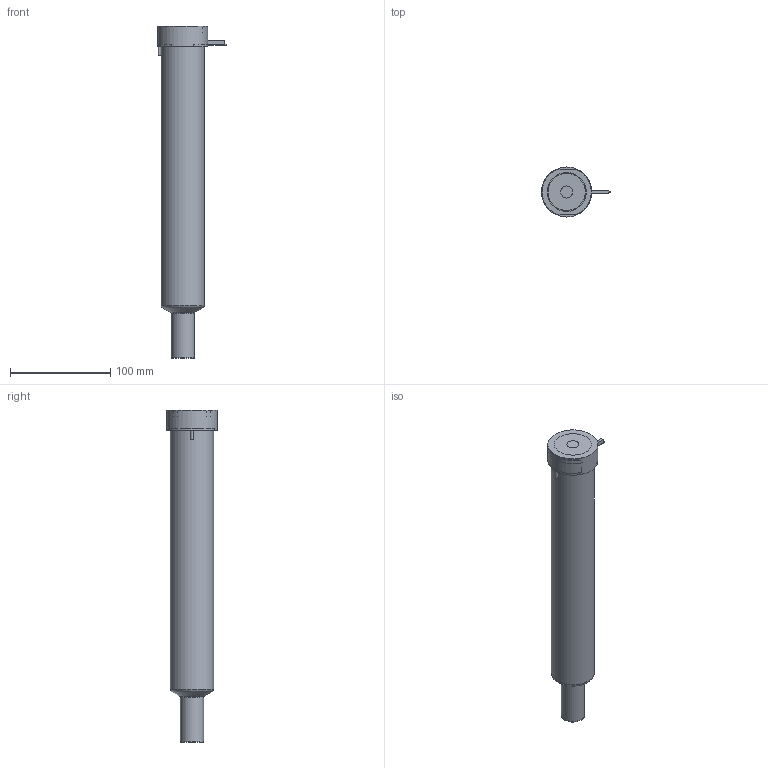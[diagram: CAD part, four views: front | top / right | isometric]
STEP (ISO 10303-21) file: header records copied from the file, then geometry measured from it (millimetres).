
FILE_DESCRIPTION(/* description */ (''),/* implementation_level */ '2;1');
FILE_NAME(/* name */ 'BXYCN27275P4U_200C_a',/* time_stamp */ '2016-02-23T09:51:21+13:00',/* author */ (''),/* organization */ (''),/* preprocessor_version */ 'ST-DEVELOPER v9',/* originating_system */ 'UGS - NX 4.0',/* authorisation */ '');
FILE_SCHEMA (('CONFIG_CONTROL_DESIGN'));
Length unit declared in the file: millimetre
Products named in the file (1): matt48E8ytkl
Bounding box: 68.6 x 50 x 331.03 mm (x, y, z)
Volume: 787526 mm3; surface area: 89945.4 mm2
Topology: 2 solids, 2 shells, 66 faces, 149 edges, 97 vertices
Faces by surface type: plane 29, cylinder 21, torus 8, cone 6, bspline 1, sphere 1
Full cylindrical faces by diameter (mm): 1 x2, 2.5 x2, 12 x2, 22.61 x1, 22.995 x2, 27.5 x1, 38.1 x1, 43 x1, 50 x1
Entity records: 2056 total; most frequent: CARTESIAN_POINT 588, DIRECTION 299, ORIENTED_EDGE 242, AXIS2_PLACEMENT_3D 128, EDGE_CURVE 121, EDGE_LOOP 100, VERTEX_POINT 91, ADVANCED_FACE 66
